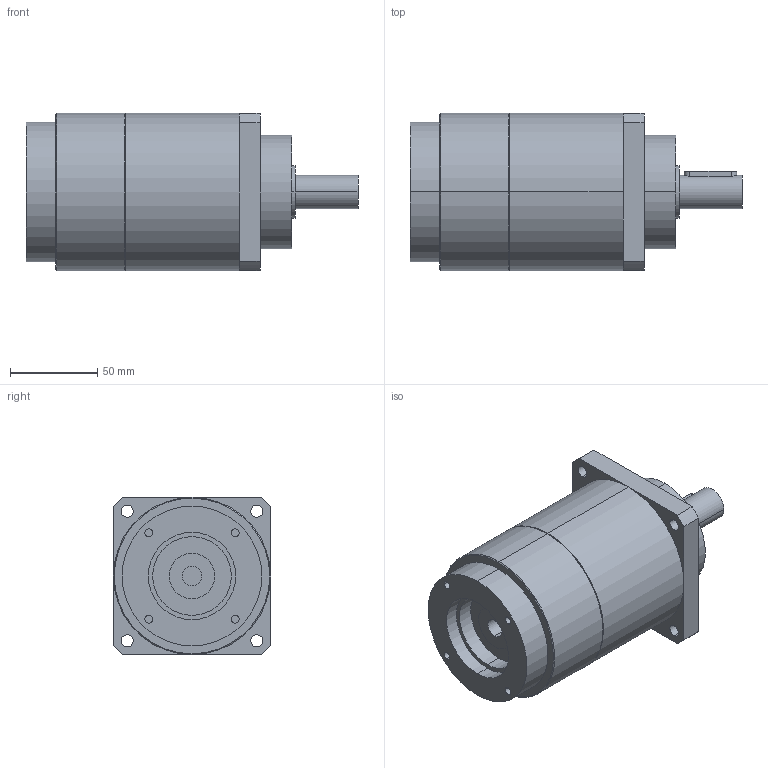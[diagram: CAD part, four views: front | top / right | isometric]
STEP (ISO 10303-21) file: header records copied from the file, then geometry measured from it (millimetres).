
FILE_DESCRIPTION(('CoCreate Modeling STEP Export'),'2;1');
FILE_NAME('GPT90_ig-9-12-16-20-25-28-35-40-50-70-100_19_B5T_11_P15.stp','2015-02-04T11:24:11',(''),(''),'CoCreate Modeling STEP processor for AP214 (Solid Model)','CoCreate Modeling 16.00C 25-Feb-2009 (C) Parametric Technology GmbH','');
FILE_SCHEMA(('AUTOMOTIVE_DESIGN { 1 0 10303 214 1 1 1 1 }'));
Length unit declared in the file: millimetre
Products named in the file (2): GPT90_ig-9-12-16-20-25-28-35-40-50-70-100_19_B5T_11_P15
Assembly tree (1 placements, depth 2):
  GPT90_ig-9-12-16-20-25-28-35-40-50-70-100_19_B5T_11_P15
    GPT90_ig-9-12-16-20-25-28-35-40-50-70-100_19_B5T_11_P15
Bounding box: 190 x 90 x 90 mm (x, y, z)
Volume: 886583.7 mm3; surface area: 66537.4 mm2
Topology: 1 solids, 1 shells, 75 faces, 190 edges, 131 vertices
Faces by surface type: cylinder 44, plane 27, cone 4
Entity records: 2388 total; most frequent: CARTESIAN_POINT 704, ORIENTED_EDGE 380, DIRECTION 282, EDGE_CURVE 190, VERTEX_POINT 131, AXIS2_PLACEMENT_3D 106, EDGE_LOOP 97, FACE_OUTER_BOUND 75
